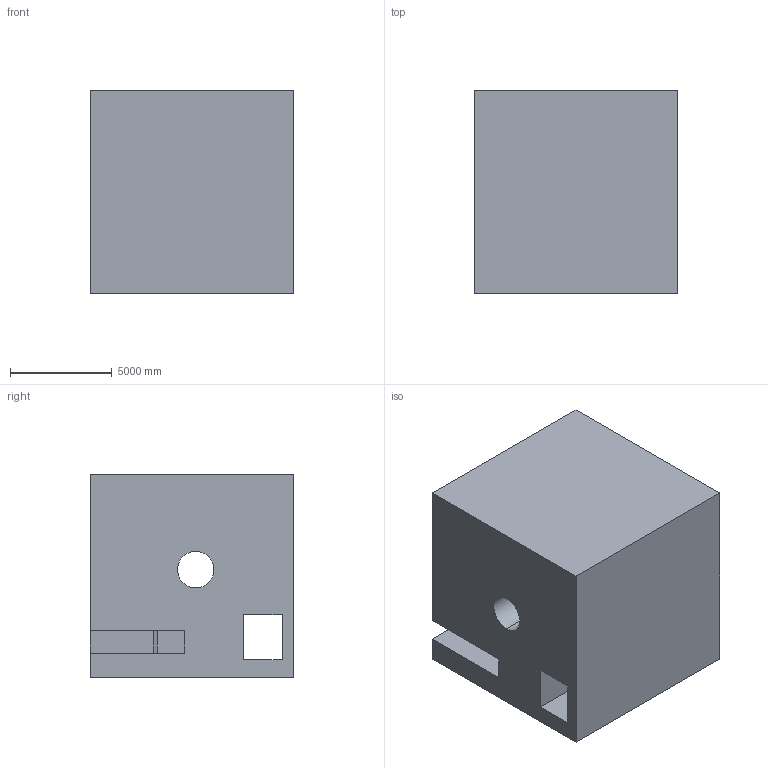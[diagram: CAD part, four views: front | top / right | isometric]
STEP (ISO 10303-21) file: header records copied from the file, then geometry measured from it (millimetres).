
FILE_DESCRIPTION (( 'STEP AP203' ), '1' );
FILE_NAME ('46.STEP', '2022-09-01T11:45:23', ( 'user' ), ( '' ), 'SwSTEP 2.0', 'SolidWorks 2021', '' );
FILE_SCHEMA (( 'CONFIG_CONTROL_DESIGN' ));
Length unit declared in the file: centimetre
Products named in the file (1): 46
Bounding box: 10000 x 10000 x 10000 mm (x, y, z)
Volume: 900556412610.9 mm3; surface area: 758498229.3 mm2
Topology: 1 solids, 1 shells, 23 faces, 66 edges, 44 vertices
Faces by surface type: plane 20, cylinder 3
Entity records: 835 total; most frequent: CARTESIAN_POINT 134, ORIENTED_EDGE 132, DIRECTION 120, EDGE_CURVE 66, VECTOR 60, LINE 60, VERTEX_POINT 44, AXIS2_PLACEMENT_3D 30
